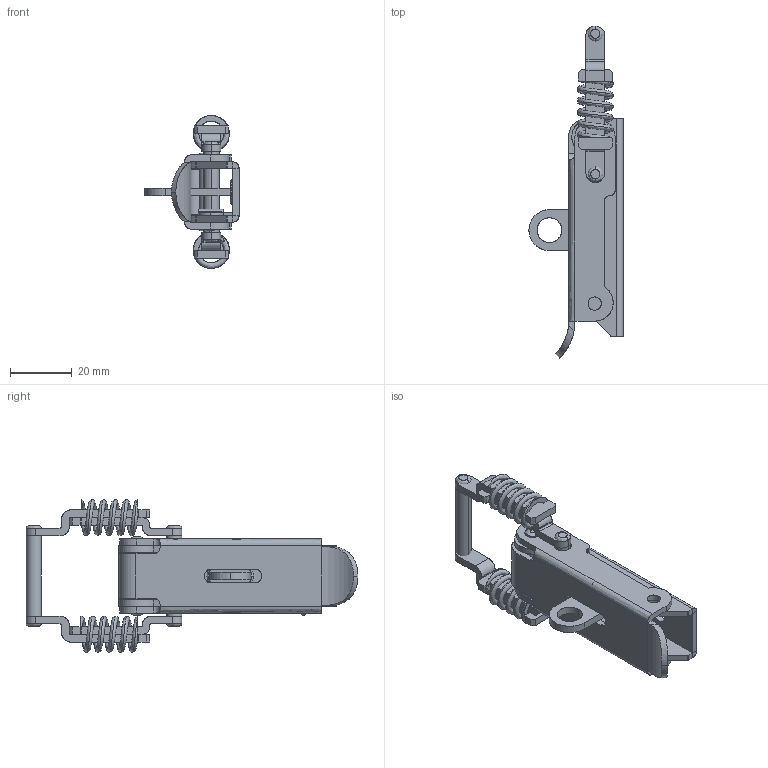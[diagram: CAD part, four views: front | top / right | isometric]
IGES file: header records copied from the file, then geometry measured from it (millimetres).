
Start section: SolidWorks IGES FILE using analytic representation for surfaces
Global section: file name: C:\Documents and Settings\lecoutey\Bureau\GP 94\GP 94.IGS; native system: SolidWorks 2004 by SolidWorks Corporation; preprocessor: Version 5.3; author: lecoutey; date: 050329.150552; units: millimetre
Bounding box: 30.5 x 107.51 x 49.5 mm (x, y, z)
Surface area: 20770.1 mm2 (no closed solid volume)
Topology: 0 solids, 0 shells, 347 faces, 4636 edges, 4605 vertices
Faces by surface type: bspline 187, revolution 160
